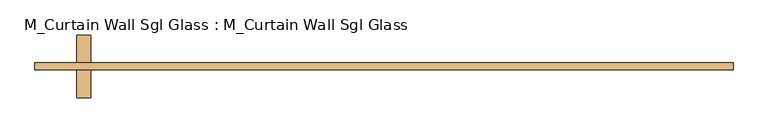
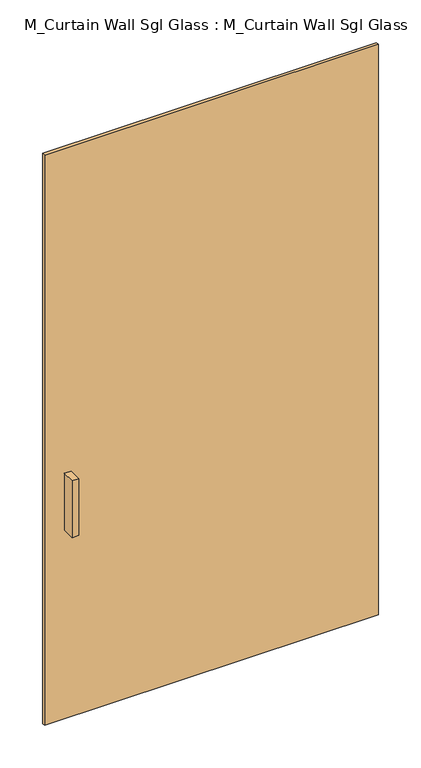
"""IFC4 building model written with IfcOpenShell, lengths in millimetres: door geometry, M_Curtain Wall Sgl Glass : M_Curtain Wall Sgl Glass."""

from ifc_helpers import new_model, si_unit, frame, origin, origin_with_axes, place, context, project, spatial, polyline, outline, extrude, source, transform, mapped, element, save


def m_curtain_wall_sgl_glass_m_curtain_wall_sgl_glass_b9642ed1(model_context):
    return source(origin(), model_context, "Body", "SweptSolid", [
        extrude(outline(polyline([(-535.9, 63.5), (-535.9, 12.7), (-561.3, 12.7), (-561.3, 63.5), (-535.9, 63.5)])), frame((0.0, 0.0, 762.0), z_axis=(0.0, 0.0, 1.0), x_axis=(1.0, 0.0, 0.0)), (0.0, 0.0, 1.0), 228.6),
        extrude(outline(polyline([(-561.3, -50.8), (-561.3, 0.0), (-535.9, 0.0), (-535.9, -50.8), (-561.3, -50.8)])), frame((0.0, 0.0, 762.0), z_axis=(0.0, 0.0, 1.0), x_axis=(1.0, 0.0, 0.0)), (0.0, 0.0, 1.0), 228.6),
        extrude(outline(polyline([(637.5, 0.0), (-637.5, 0.0), (-637.5, 12.7), (637.5, 12.7), (637.5, 0.0)])), origin_with_axes(), (0.0, 0.0, 1.0), 2300.0),
    ])


if __name__ == "__main__":
    model = new_model("IFC4")
    model_context = context("Model", 3, world=origin())
    ifc_project = project(units=[si_unit("LENGTHUNIT", "METRE", prefix="MILLI")], contexts=[model_context])
    site = spatial("IfcSite", under=ifc_project)
    building = spatial("IfcBuilding", under=site)
    placement = place(None, origin())
    m_curtain_wall_sgl_glass_m_curtain_wall_sgl_glass_shape = m_curtain_wall_sgl_glass_m_curtain_wall_sgl_glass_b9642ed1(model_context)
    element("IfcDoor", 1, ObjectType="M_Curtain Wall Sgl Glass : M_Curtain Wall Sgl Glass", at=placement, inside=building, context=model_context, shape_type="MappedRepresentation", body=[
        mapped(m_curtain_wall_sgl_glass_m_curtain_wall_sgl_glass_shape, transform((0.0, 0.0, 0.0), x_axis=(1.0, 0.0, 0.0), y_axis=(0.0, 1.0, 0.0), z_axis=(0.0, 0.0, 1.0))),
    ])
    save(model, "model.ifc")
